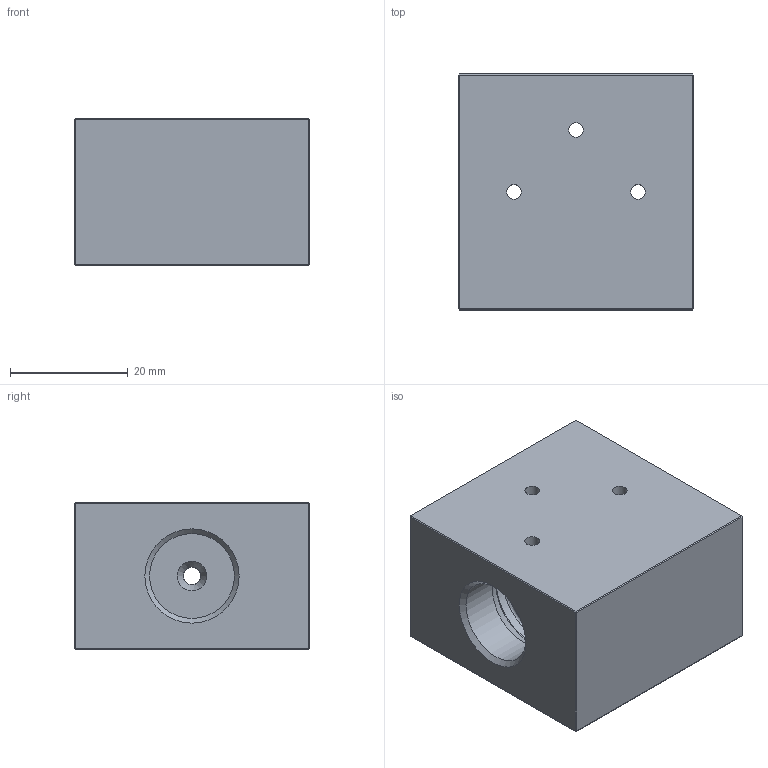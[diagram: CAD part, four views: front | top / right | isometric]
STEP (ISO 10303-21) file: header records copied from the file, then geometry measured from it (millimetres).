
FILE_DESCRIPTION(/* description */ (''),/* implementation_level */ '2;1');
FILE_NAME(/* name */ 'FIT.TEE.M16.1600.stp',/* time_stamp */ '2026-07-09T21:54:44+02:00',/* author */ ('janos'),/* organization */ (''),/* preprocessor_version */ 'ST-DEVELOPER v19.2',/* originating_system */ 'Autodesk Inventor 2024',/* authorisation */ '');
FILE_SCHEMA (('AUTOMOTIVE_DESIGN { 1 0 10303 214 3 1 1 }'));
Length unit declared in the file: millimetre
Products named in the file (1): W.16.1-4.1600
Bounding box: 40 x 40 x 25 mm (x, y, z)
Volume: 33805.2 mm3; surface area: 9162.4 mm2
Topology: 1 solids, 1 shells, 68 faces, 178 edges, 107 vertices
Faces by surface type: plane 29, cylinder 20, cone 10, torus 9
Full cylindrical faces by diameter (mm): 2.5 x6, 3 x3, 14.376 x3
Entity records: 2463 total; most frequent: CARTESIAN_POINT 769, ORIENTED_EDGE 354, DIRECTION 334, EDGE_CURVE 177, AXIS2_PLACEMENT_3D 132, VERTEX_POINT 107, EDGE_LOOP 80, LINE 70
